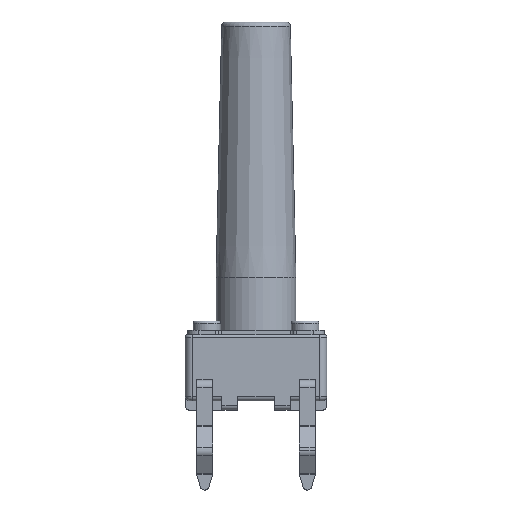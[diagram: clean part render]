
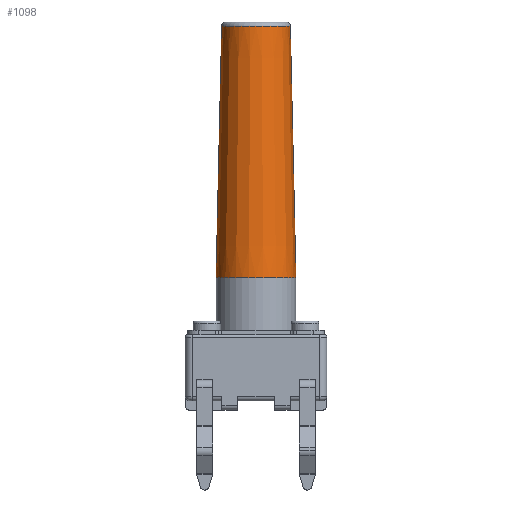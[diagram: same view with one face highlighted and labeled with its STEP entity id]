
A CAD part, left-side view. The second image highlights one B-rep face of the part: STEP entity #1098.
In plain terms, the highlighted conical face has half-angle 1.279 degrees and reference radius 1.75 mm.
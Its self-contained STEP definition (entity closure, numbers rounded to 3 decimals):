
#1098 = ADVANCED_FACE ( 'NONE', ( #6052 ), #6091, .T. ) ;
#1099 = EDGE_LOOP ( 'NONE', ( #1100, #1101, #1103, #1104 ) ) ;
#1100 = ORIENTED_EDGE ( 'NONE', *, *, #1674, .F. ) ;
#1101 = ORIENTED_EDGE ( 'NONE', *, *, #1102, .T. ) ;
#1102 = EDGE_CURVE ( 'NONE', #1735, #1673, #6086, .T. ) ;
#1103 = ORIENTED_EDGE ( 'NONE', *, *, #1736, .T. ) ;
#1104 = ORIENTED_EDGE ( 'NONE', *, *, #1119, .F. ) ;
#1119 = EDGE_CURVE ( 'NONE', #1684, #1655, #6168, .T. ) ;
#1655 = VERTEX_POINT ( 'NONE', #7757 ) ;
#1673 = VERTEX_POINT ( 'NONE', #7808 ) ;
#1674 = EDGE_CURVE ( 'NONE', #1735, #1684, #7807, .T. ) ;
#1684 = VERTEX_POINT ( 'NONE', #7837 ) ;
#1735 = VERTEX_POINT ( 'NONE', #7998 ) ;
#1736 = EDGE_CURVE ( 'NONE', #1673, #1655, #7997, .T. ) ;
#6052 = FACE_OUTER_BOUND ( 'NONE', #1099, .T. ) ;
#6083 = DIRECTION ( 'NONE',  ( 0., 0., -1. ) ) ;
#6084 = DIRECTION ( 'NONE',  ( 0., -1., 0. ) ) ;
#6085 = AXIS2_PLACEMENT_3D ( 'NONE', #6092, #6084, #6083 ) ;
#6086 = CIRCLE ( 'NONE', #6085, 1.504 ) ;
#6088 = DIRECTION ( 'NONE',  ( 0., 0., -1. ) ) ;
#6089 = DIRECTION ( 'NONE',  ( 0., -1., 0. ) ) ;
#6090 = AXIS2_PLACEMENT_3D ( 'NONE', #6093, #6089, #6088 ) ;
#6091 = CONICAL_SURFACE ( 'NONE', #6090, 1.75, 0.022 ) ;
#6092 = CARTESIAN_POINT ( 'NONE',  ( 0., 16.804, 0. ) ) ;
#6093 = CARTESIAN_POINT ( 'NONE',  ( 0., 5.8, 0. ) ) ;
#6165 = DIRECTION ( 'NONE',  ( 0., 0., -1. ) ) ;
#6166 = DIRECTION ( 'NONE',  ( 0., -1., 0. ) ) ;
#6167 = AXIS2_PLACEMENT_3D ( 'NONE', #6174, #6166, #6165 ) ;
#6168 = CIRCLE ( 'NONE', #6167, 1.75 ) ;
#6174 = CARTESIAN_POINT ( 'NONE',  ( 0., 5.8, 0. ) ) ;
#7757 = CARTESIAN_POINT ( 'NONE',  ( 0., 5.8, -1.75 ) ) ;
#7804 = DIRECTION ( 'NONE',  ( 0., -1., 0.022 ) ) ;
#7805 = VECTOR ( 'NONE', #7804, 1000. ) ;
#7806 = CARTESIAN_POINT ( 'NONE',  ( 0., 5.8, 1.75 ) ) ;
#7807 = LINE ( 'NONE', #7806, #7805 ) ;
#7808 = CARTESIAN_POINT ( 'NONE',  ( 0., 16.804, -1.504 ) ) ;
#7837 = CARTESIAN_POINT ( 'NONE',  ( 0., 5.8, 1.75 ) ) ;
#7994 = DIRECTION ( 'NONE',  ( 0., -1., -0.022 ) ) ;
#7995 = VECTOR ( 'NONE', #7994, 1000. ) ;
#7996 = CARTESIAN_POINT ( 'NONE',  ( 0., 5.8, -1.75 ) ) ;
#7997 = LINE ( 'NONE', #7996, #7995 ) ;
#7998 = CARTESIAN_POINT ( 'NONE',  ( 0., 16.804, 1.504 ) ) ;
